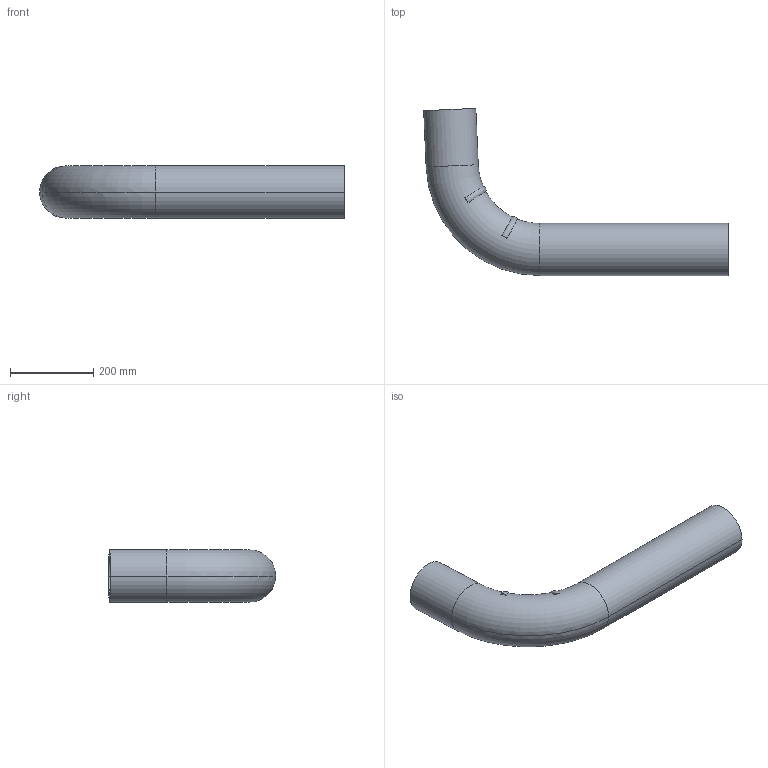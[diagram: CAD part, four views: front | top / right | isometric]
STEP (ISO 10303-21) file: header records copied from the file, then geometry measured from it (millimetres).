
FILE_DESCRIPTION (( 'STEP AP214' ), '1' );
FILE_NAME ('KP_3-125-110SCEC.step', '2023-03-20T11:01:26', ( '' ), ( '' ), 'SwSTEP 2.0', 'SolidWorks 2022', '' );
FILE_SCHEMA (( 'AUTOMOTIVE_DESIGN' ));
Length unit declared in the file: millimetre
Products named in the file (1): KP_3-125-110SCEC
Bounding box: 730 x 400.45 x 128.27 mm (x, y, z)
Volume: 4875855.7 mm3; surface area: 1284775.2 mm2
Topology: 2 solids, 2 shells, 175 faces, 412 edges, 241 vertices
Faces by surface type: cylinder 110, torus 57, plane 8
Entity records: 5359 total; most frequent: CARTESIAN_POINT 1093, DIRECTION 1042, ORIENTED_EDGE 824, AXIS2_PLACEMENT_3D 466, EDGE_CURVE 412, CIRCLE 290, VERTEX_POINT 241, EDGE_LOOP 179
